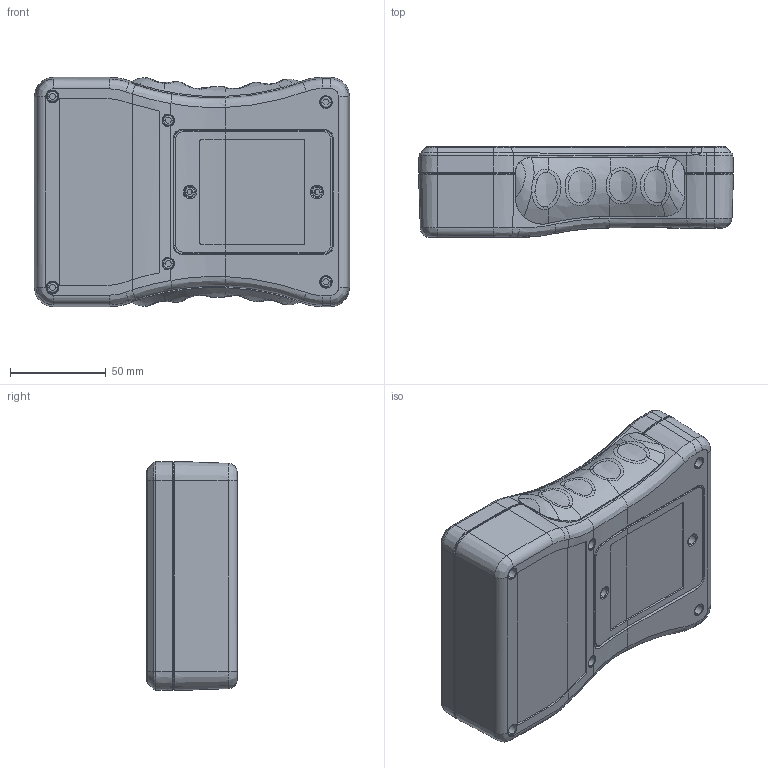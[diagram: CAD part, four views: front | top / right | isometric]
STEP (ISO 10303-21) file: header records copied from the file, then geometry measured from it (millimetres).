
FILE_DESCRIPTION (( 'STEP AP214' ), '1' );
FILE_NAME ('extreme-Small.STEP', '2019-06-24T18:49:29', ( '' ), ( '' ), 'SwSTEP 2.0', 'SolidWorks 2014', '' );
FILE_SCHEMA (( 'AUTOMOTIVE_DESIGN' ));
Length unit declared in the file: inch
Products named in the file (19): MAIN-PCB; EXTREME-S-BOTTOM; EXTREME-S-BATTER-DOOR; EXTREME-RUBBER; BOTTOM-PCB; 4-AA; BATTERY_2A; 4XAA-BOX; 2AA-BOX; 2-9V_1; 2-9V_3; 2-9V_2; 2-9V-BOX; 1-9V; 2-9V; 1-9V_BOX; extreme-Small; TOP-MDL-S-16465; MDL-S-16465
Assembly tree (18 placements, depth 3):
  extreme-Small
    1-9V
      1-9V_BOX
      2-9V
    2-9V_1
      2-9V-BOX
      2-9V_2
      2-9V_3
    2AA-BOX
    4-AA
      4XAA-BOX
      BATTERY_2A
    BOTTOM-PCB
    EXTREME-RUBBER
    EXTREME-S-BATTER-DOOR
    EXTREME-S-BOTTOM
    MAIN-PCB
    MDL-S-16465
    TOP-MDL-S-16465
Bounding box: 164.85 x 47.5 x 119.95 mm (x, y, z)
Volume: 405614.5 mm3; surface area: 309380.7 mm2
Topology: 19 solids, 19 shells, 2819 faces, 7623 edges, 4906 vertices
Faces by surface type: plane 1481, cylinder 759, bspline 440, cone 139
Entity records: 107387 total; most frequent: CARTESIAN_POINT 38063, ORIENTED_EDGE 15228, DIRECTION 13189, EDGE_CURVE 7614, VERTEX_POINT 4906, LINE 4583, VECTOR 4583, AXIS2_PLACEMENT_3D 4303
